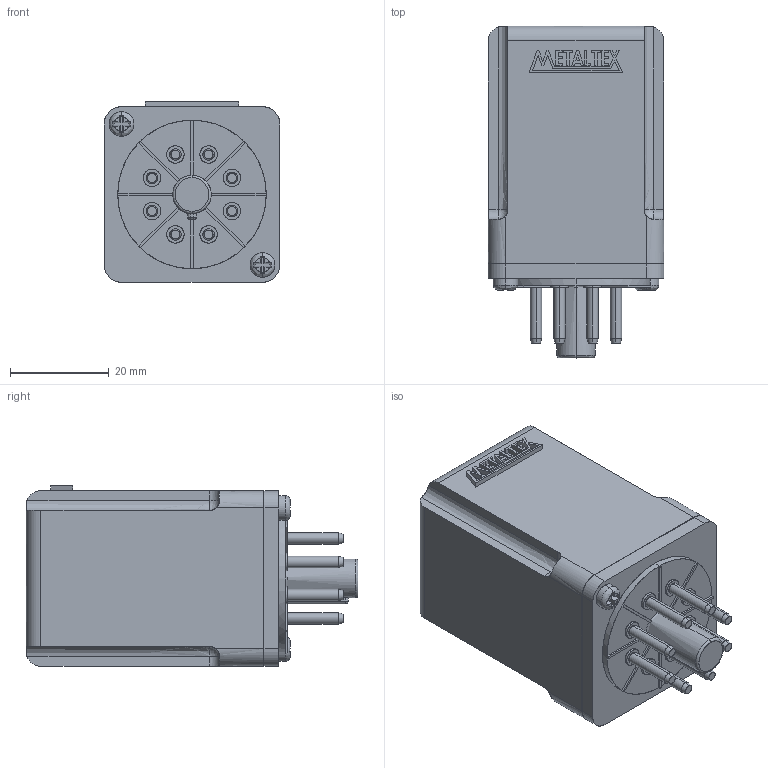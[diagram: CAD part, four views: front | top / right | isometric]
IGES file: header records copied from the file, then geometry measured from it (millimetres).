
Start section: SolidWorks IGES file using analytic representation for surfaces
Global section: file name: D:\X - Arquivos\PROEX\Empresas\P11 - METALTEX\01 - Produtos\IGES\7ª remessa\1ª etapa\OP2RC2.IGS; native system: SolidWorks 2012; preprocessor: SolidWorks 2012; author: Usuario; date: 190705.142926; units: millimetre
Bounding box: 35.5 x 67.1 x 36.5 mm (x, y, z)
Surface area: 13417 mm2 (no closed solid volume)
Topology: 0 solids, 0 shells, 306 faces, 3044 edges, 3042 vertices
Faces by surface type: bspline 213, revolution 93
